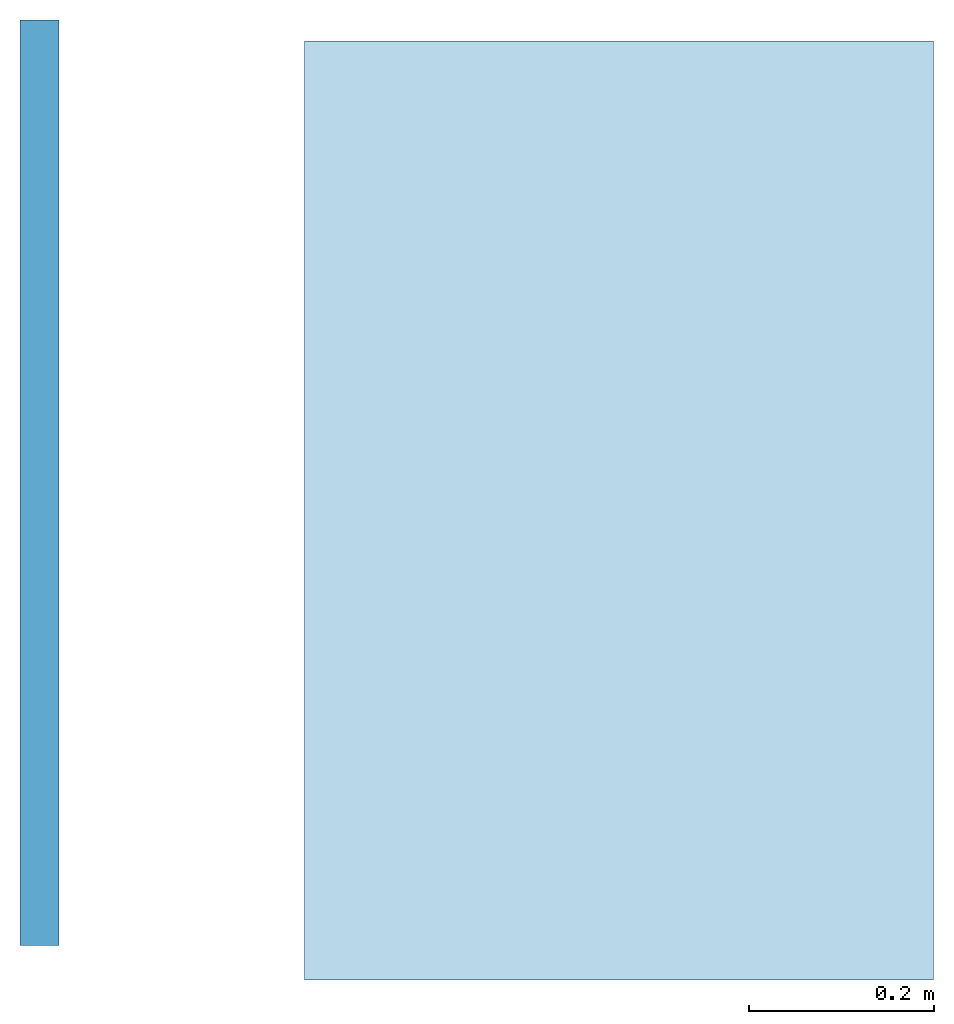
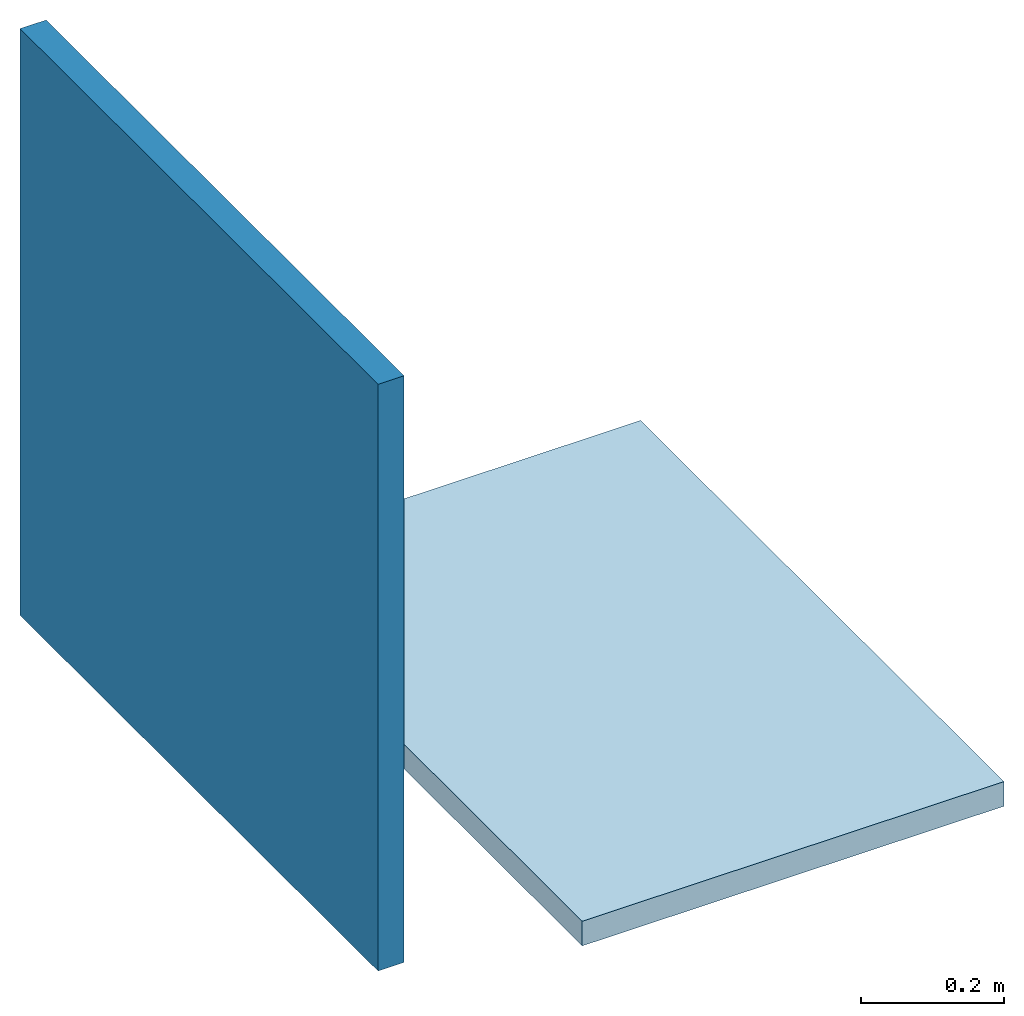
# One storey: 1 slab, 1 wall.
"""IFC2X3 building model written with IfcOpenShell, lengths in metres."""

from ifc_helpers import new_model, entity, si_unit, converted_unit, derived_unit, direction, frame, frame_2d, origin, place, context, subcontext, project, spatial, rectangle, extrude, material, layer, layer_set, layer_usage, type_object, element, save


model = new_model("IFC2X3")

# Units and contexts
model_context = context("Model", 3, precision=1e-05, world=origin(), true_north=direction((6.12303176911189e-17, 1.0)))
body_context = subcontext(model_context, "Body", "Model", "MODEL_VIEW")
ifc_project = project(units=[si_unit("LENGTHUNIT", "METRE"), si_unit("AREAUNIT", "SQUARE_METRE"), si_unit("VOLUMEUNIT", "CUBIC_METRE"), converted_unit("PLANEANGLEUNIT", "DEGREE", entity("IfcRatioMeasure", 0.0174532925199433), si_unit("PLANEANGLEUNIT", "RADIAN"), dimensions=[0, 0, 0, 0, 0, 0, 0]), si_unit("MASSUNIT", "GRAM", prefix="KILO"), derived_unit("MASSDENSITYUNIT", [(si_unit("MASSUNIT", "GRAM", prefix="KILO"), 1), (si_unit("LENGTHUNIT", "METRE"), -3)]), si_unit("TIMEUNIT", "SECOND"), si_unit("FREQUENCYUNIT", "HERTZ"), si_unit("THERMODYNAMICTEMPERATUREUNIT", "DEGREE_CELSIUS"), derived_unit("THERMALTRANSMITTANCEUNIT", [(si_unit("MASSUNIT", "GRAM", prefix="KILO"), 1), (si_unit("THERMODYNAMICTEMPERATUREUNIT", "KELVIN"), -1), (si_unit("TIMEUNIT", "SECOND"), -3)]), derived_unit("VOLUMETRICFLOWRATEUNIT", [(si_unit("LENGTHUNIT", "METRE"), 3), (si_unit("TIMEUNIT", "SECOND"), -1)]), si_unit("ELECTRICCURRENTUNIT", "AMPERE"), si_unit("ELECTRICVOLTAGEUNIT", "VOLT"), si_unit("POWERUNIT", "WATT"), si_unit("FORCEUNIT", "NEWTON", prefix="KILO"), si_unit("ILLUMINANCEUNIT", "LUX"), si_unit("LUMINOUSFLUXUNIT", "LUMEN"), si_unit("LUMINOUSINTENSITYUNIT", "CANDELA"), derived_unit("USERDEFINED", [(si_unit("MASSUNIT", "GRAM", prefix="KILO"), -1), (si_unit("LENGTHUNIT", "METRE"), -2), (si_unit("TIMEUNIT", "SECOND"), 3), (si_unit("LUMINOUSFLUXUNIT", "LUMEN"), 1)]), derived_unit("LINEARVELOCITYUNIT", [(si_unit("LENGTHUNIT", "METRE"), 1), (si_unit("TIMEUNIT", "SECOND"), -1)]), si_unit("PRESSUREUNIT", "PASCAL"), derived_unit("USERDEFINED", [(si_unit("LENGTHUNIT", "METRE"), -2), (si_unit("MASSUNIT", "GRAM", prefix="KILO"), 1), (si_unit("TIMEUNIT", "SECOND"), -2)])], contexts=[model_context])

# Site, building, storey
site_placement = place(None, origin())
site = spatial("IfcSite", under=ifc_project, at=site_placement, Name="Default", CompositionType="ELEMENT")
building_placement = place(site_placement, origin())
building = spatial("IfcBuilding", under=site, at=building_placement, CompositionType="ELEMENT")
storey_placement = place(building_placement, origin())
storey = spatial("IfcBuildingStorey", under=building, at=storey_placement, Name="Nivel 1", CompositionType="ELEMENT", Elevation=0.0)

# Slab
ifc_material = material(Name="VALERO Grafipol® TR-5")
ifc_layer_1 = layer(ifc_material, 0.042)
ifc_layer_set_1 = layer_set([ifc_layer_1], Name="Suelo:Grafipol® TR-5_Suelos_1015x680x42mm")
ifc_layer_usage_1 = layer_usage(ifc_layer_set_1, "AXIS3", "POSITIVE", 0.0)
slab_placement = place(storey_placement, origin())
element("IfcSlab", 1, at=slab_placement, inside=storey, material=ifc_layer_usage_1, Name="Suelo:Grafipol® TR-5_Suelos_1015x680x42mm", ObjectType="Suelo:Grafipol® TR-5_Suelos_1015x680x42mm", PredefinedType="FLOOR", context=body_context, shape_type="SweptSolid", body=[
    extrude(rectangle(XDim=1.015, YDim=0.679999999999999, at=frame_2d((-5.55111512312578e-16, 1.08246744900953e-15), x_axis=(1.0, 0.0))), frame((16.1176292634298, -4.99037302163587, 0.0), z_axis=(0.0, 0.0, -1.0), x_axis=(0.0, 1.0, 0.0)), (0.0, 0.0, 1.0), 0.042),
])

# Wall
ifc_layer_2 = layer(ifc_material, 0.042)
ifc_layer_set_2 = layer_set([ifc_layer_2], Name="Muro básico:Grafipol TR-5_Tabiques_1015x680x42mm")
ifc_layer_usage_2 = layer_usage(ifc_layer_set_2, "AXIS2", "NEGATIVE", 0.021)
wall_type = type_object("IfcWallType", Name="Muro básico:Grafipol TR-5_Tabiques_1015x680x42mm", PredefinedType="STANDARD", material=ifc_layer_set_2)
wall_placement = place(storey_placement, frame((15.4911728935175, -5.46038440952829, 0.0), z_axis=(0.0, 0.0, 1.0), x_axis=(0.0, 1.0, 0.0)))
element("IfcWallStandardCase", 2, at=wall_placement, inside=storey, type_object=wall_type, material=ifc_layer_usage_2, Name="Muro básico:Grafipol TR-5_Tabiques_1015x680x42mm", ObjectType="Muro básico:Grafipol TR-5_Tabiques_1015x680x42mm", context=body_context, shape_type="SweptSolid", body=[
    extrude(rectangle(XDim=0.999999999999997, YDim=0.0419999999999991, at=frame_2d((0.499999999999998, -7.56339435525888e-16), x_axis=(-1.0, 0.0))), origin(), (0.0, 0.0, 1.0), 1.0),
])

save(model, "model.ifc")
